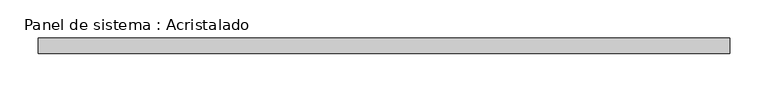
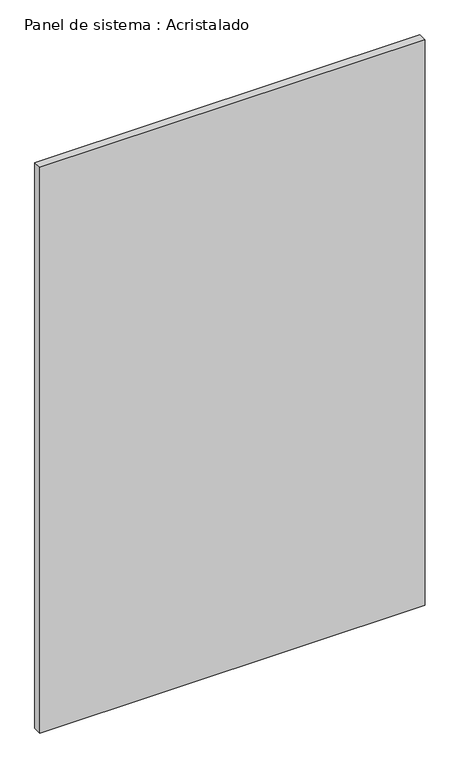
"""IFC4 building model written with IfcOpenShell, lengths in millimetres: plate geometry, Panel de sistema : Acristalado."""

from ifc_helpers import new_model, si_unit, origin, origin_with_axes, place, context, project, spatial, polyline, outline, extrude, source, transform, mapped, element, save


def panel_de_sistema_acristalado_866c66d0(model_context):
    return source(origin(), model_context, "Body", "SweptSolid", [
        extrude(outline(polyline([(450.96692, -10.0), (-450.96692, -10.0), (-450.96692, 10.0), (450.96692, 10.0), (450.96692, -10.0)])), origin_with_axes(), (0.0, 0.0, 1.0), 1400.0),
    ])


if __name__ == "__main__":
    model = new_model("IFC4")
    model_context = context("Model", 3, world=origin())
    ifc_project = project(units=[si_unit("LENGTHUNIT", "METRE", prefix="MILLI")], contexts=[model_context])
    site = spatial("IfcSite", under=ifc_project)
    building = spatial("IfcBuilding", under=site)
    placement = place(None, origin())
    panel_de_sistema_acristalado_shape = panel_de_sistema_acristalado_866c66d0(model_context)
    element("IfcPlate", 1, ObjectType="Panel de sistema : Acristalado", at=placement, inside=building, context=model_context, shape_type="MappedRepresentation", body=[
        mapped(panel_de_sistema_acristalado_shape, transform((0.0, 0.0, 0.0), x_axis=(1.0, 0.0, 0.0), y_axis=(0.0, 1.0, 0.0), z_axis=(0.0, 0.0, 1.0))),
    ])
    save(model, "model.ifc")
